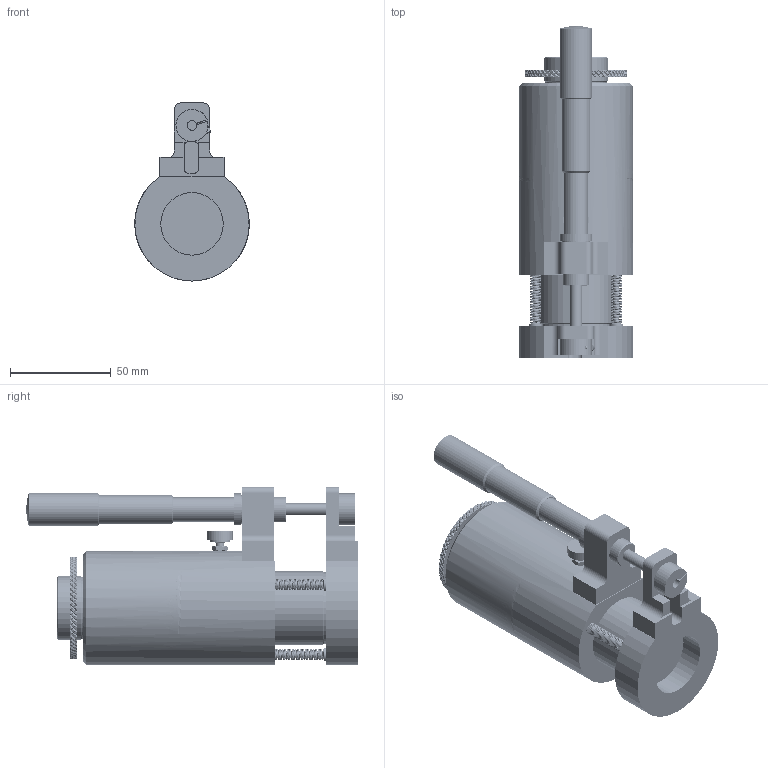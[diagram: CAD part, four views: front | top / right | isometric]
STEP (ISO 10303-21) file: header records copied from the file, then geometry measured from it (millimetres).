
FILE_DESCRIPTION (( 'STEP AP214' ), '1' );
FILE_NAME ('LAM-25-50.STEP', '2016-11-14T21:49:16', ( '' ), ( '' ), 'SwSTEP 2.0', 'SolidWorks 2016', '' );
FILE_SCHEMA (( 'AUTOMOTIVE_DESIGN' ));
Length unit declared in the file: inch
Products named in the file (1): LAM-25-50
Bounding box: 56.64 x 164.35 x 88.21 mm (x, y, z)
Volume: 417566 mm3; surface area: 83131.1 mm2
Topology: 33 solids, 33 shells, 1743 faces, 4257 edges, 2665 vertices
Faces by surface type: plane 1213, cylinder 388, cone 96, torus 36, bspline 6, sphere 4
Entity records: 133210 total; most frequent: CARTESIAN_POINT 94166, ORIENTED_EDGE 8472, DIRECTION 7538, EDGE_CURVE 4236, VERTEX_POINT 2662, AXIS2_PLACEMENT_3D 2550, VECTOR 2438, LINE 2438
